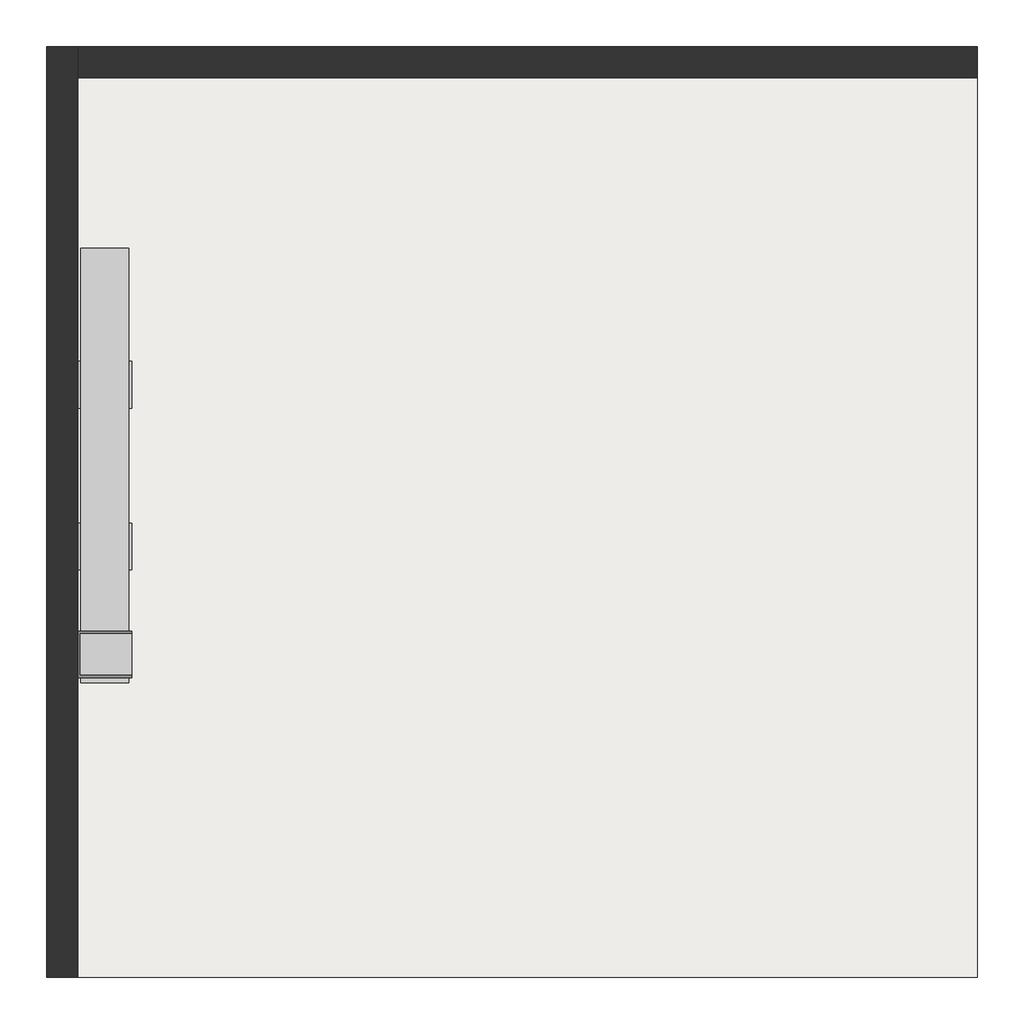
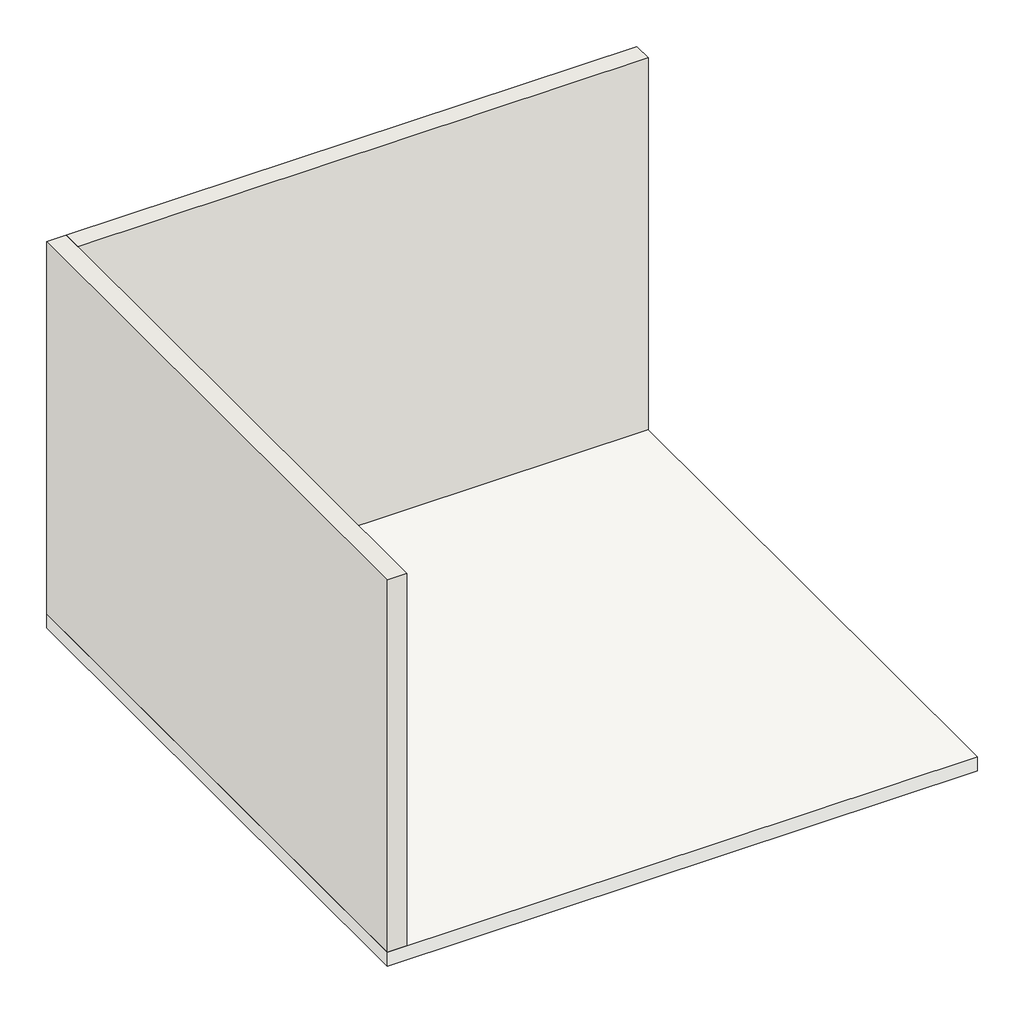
# One storey, incomplete: 8 furniture elements, 2 walls, 1 slab.
"""IFC4 building model written with IfcOpenShell, lengths in millimetres."""

import ifcopenshell
import ifcopenshell.guid

model = None  # the IFC model being written
_history = None  # IfcOwnerHistory: only IFC2X3 demands one
_inside = {}  # id of a spatial element -> (the spatial element, [elements in it])
_under = {}  # id of a project, library or spatial element -> (it, [spatial elements below it])
_declared = {}  # id of a project -> (the project, [libraries it declares])
_typed = {}  # id of a type object -> (the type object, [elements of that type])
_made_of = {}  # id of a material, layer set ... -> (it, [elements and type objects made of it])


def new_model(schema):
    """Start an empty IFC model of exactly this schema.

    Asked for "IFC4X3", IfcOpenShell would pick the latest addendum, in which some entities
    have other attributes; the version numbers below select the first issue.
    IFC2X3 requires an IfcOwnerHistory on every rooted entity: one is made here for all.
    """
    global model, _history
    if schema == "IFC4X3":
        model = ifcopenshell.file(schema_version=(4, 3, 0, 0))
    else:
        model = ifcopenshell.file(schema=schema)
    _inside.clear()
    _under.clear()
    _declared.clear()
    _typed.clear()
    _made_of.clear()
    _history = None
    if model.schema == "IFC2X3":
        org = make("IfcOrganization", Name="unknown")
        user = make(
            "IfcPersonAndOrganization",
            ThePerson=make("IfcPerson", FamilyName="unknown"),
            TheOrganization=org,
        )
        app = make(
            "IfcApplication",
            ApplicationDeveloper=org,
            Version="unknown",
            ApplicationFullName="unknown",
            ApplicationIdentifier="unknown",
        )
        _history = make(
            "IfcOwnerHistory",
            OwningUser=user,
            OwningApplication=app,
            ChangeAction="ADDED",
            CreationDate=0,
        )
    return model


def make(cls, **values):
    """One entity of the class cls with the attributes given. An attribute that is None is left unset."""
    return model.create_entity(
        cls, **{name: value for name, value in values.items() if value is not None}
    )


def rooted(cls, **values):
    """An entity with a GlobalId (a new one), such as an element, a storey or a relation."""
    return make(cls, GlobalId=ifcopenshell.guid.new(), OwnerHistory=_history, **values)


def si_unit(unit_type, name, prefix=None):
    """IfcSIUnit, for example si_unit("LENGTHUNIT", "METRE", prefix="MILLI")."""
    return make("IfcSIUnit", UnitType=unit_type, Prefix=prefix, Name=name)


def assignment(units):
    """IfcUnitAssignment: the units of a project."""
    return None if units is None else make("IfcUnitAssignment", Units=units)


def point(xyz):
    """IfcCartesianPoint."""
    return None if xyz is None else make("IfcCartesianPoint", Coordinates=xyz)


def direction(xyz):
    """IfcDirection."""
    return None if xyz is None else make("IfcDirection", DirectionRatios=xyz)


def frame(location, z_axis=None, x_axis=None):
    """IfcAxis2Placement3D, a coordinate frame: its origin and axes. An axis left out is left unset."""
    return make(
        "IfcAxis2Placement3D",
        Location=point(location),
        Axis=direction(z_axis),
        RefDirection=direction(x_axis),
    )


def origin():
    """The frame at (0, 0, 0) with its axes left unset."""
    return frame((0.0, 0.0, 0.0))


def origin_with_axes():
    """The frame at (0, 0, 0) with the z axis (0, 0, 1) and the x axis (1, 0, 0) written out."""
    return frame((0.0, 0.0, 0.0), z_axis=(0.0, 0.0, 1.0), x_axis=(1.0, 0.0, 0.0))


def place(relative_to, where):
    """IfcLocalPlacement: puts the frame where relative to a parent placement (None: the world)."""
    return make(
        "IfcLocalPlacement", PlacementRelTo=relative_to, RelativePlacement=where
    )


def context(
    kind, dimensions, precision=None, world=None, true_north=None, identifier=None
):
    """IfcGeometricRepresentationContext, for example the 3D "Model" context."""
    return make(
        "IfcGeometricRepresentationContext",
        ContextIdentifier=identifier,
        ContextType=kind,
        CoordinateSpaceDimension=dimensions,
        Precision=precision,
        WorldCoordinateSystem=world,
        TrueNorth=true_north,
    )


def project(units=None, contexts=None):
    """IfcProject with its units and contexts."""
    return rooted(
        "IfcProject",
        Name="project",
        RepresentationContexts=contexts,
        UnitsInContext=assignment(units),
    )


def spatial(cls, under=None, at=None, **own):
    """A site, building, storey or space (cls), placed at a placement, below another one or the project."""
    s = rooted(cls, ObjectPlacement=at, **own)
    if under is not None:
        _under.setdefault(under.id(), (under, []))[1].append(s)
    return s


def polyline(points):
    """IfcPolyline through the points."""
    return make("IfcPolyline", Points=[point(p) for p in points])


def outline(outer, holes=None, kind="AREA"):
    """IfcArbitraryClosedProfileDef: a profile drawn as a closed curve; with holes, ...WithVoids."""
    if holes is None:
        return make("IfcArbitraryClosedProfileDef", ProfileType=kind, OuterCurve=outer)
    return make(
        "IfcArbitraryProfileDefWithVoids",
        ProfileType=kind,
        OuterCurve=outer,
        InnerCurves=holes,
    )


def extrude(swept, where, along, depth):
    """IfcExtrudedAreaSolid: the profile swept, set in the frame where, extruded along a direction by depth."""
    return make(
        "IfcExtrudedAreaSolid",
        SweptArea=swept,
        Position=where,
        ExtrudedDirection=direction(along),
        Depth=depth,
    )


def faces_of(points, faces, orient=None, outer=None):
    """IfcFace entities. A face is a list of loops; a loop is a list of indices into points, from 0.

    orient and outer hold one flag for each loop. By default every Orientation is true, the
    first loop of a face is its IfcFaceOuterBound and the others are IfcFaceBound.
    """
    made = []
    for i, loops in enumerate(faces):
        bounds = []
        for j, loop in enumerate(loops):
            is_outer = j == 0 if outer is None else outer[i][j]
            bounds.append(
                make(
                    "IfcFaceOuterBound" if is_outer else "IfcFaceBound",
                    Bound=make("IfcPolyLoop", Polygon=[points[k] for k in loop]),
                    Orientation=True if orient is None else orient[i][j],
                )
            )
        made.append(make("IfcFace", Bounds=bounds))
    return made


def faceted_brep(points, faces, orient=None, outer=None, voids=None):
    """IfcFacetedBrep: a solid bounded by flat faces; with voids (closed shells), ...WithVoids."""
    shared = [point(p) for p in points]
    hull = make("IfcClosedShell", CfsFaces=faces_of(shared, faces, orient, outer))
    if voids is None:
        return make("IfcFacetedBrep", Outer=hull)
    return make(
        "IfcFacetedBrepWithVoids",
        Outer=hull,
        Voids=[
            make(cls, CfsFaces=faces_of(shared, fs, o, b)) for cls, fs, o, b in voids
        ],
    )


def shape(context_of_items, identifier, shape_type, items):
    """IfcShapeRepresentation: the items that make up one representation, for example the "Body"."""
    return make(
        "IfcShapeRepresentation",
        ContextOfItems=context_of_items,
        RepresentationIdentifier=identifier,
        RepresentationType=shape_type,
        Items=items,
    )


def source(mapping_origin, context_of_items, identifier, shape_type, items):
    """IfcRepresentationMap: a shape defined once, which mapped items show again and again."""
    return make(
        "IfcRepresentationMap",
        MappingOrigin=mapping_origin,
        MappedRepresentation=shape(context_of_items, identifier, shape_type, items),
    )


def transform(
    local_origin,
    x_axis=None,
    y_axis=None,
    z_axis=None,
    scale=None,
    scale2=None,
    scale3=None,
    uniform=True,
):
    """IfcCartesianTransformationOperator3D, or its non-uniform kind. x_axis, y_axis, z_axis: its Axis1, 2, 3."""
    if uniform:
        return make(
            "IfcCartesianTransformationOperator3D",
            Axis1=direction(x_axis),
            Axis2=direction(y_axis),
            LocalOrigin=point(local_origin),
            Scale=scale,
            Axis3=direction(z_axis),
        )
    return make(
        "IfcCartesianTransformationOperator3DnonUniform",
        Axis1=direction(x_axis),
        Axis2=direction(y_axis),
        LocalOrigin=point(local_origin),
        Scale=scale,
        Axis3=direction(z_axis),
        Scale2=scale2,
        Scale3=scale3,
    )


def mapped(mapping_source, mapping_target):
    """IfcMappedItem: shows the shape of a source again, moved by a transform."""
    return make(
        "IfcMappedItem", MappingSource=mapping_source, MappingTarget=mapping_target
    )


def made_of(thing, what):
    """Note that an element or type object is made of a material, layer set ...; save() writes the relation."""
    if what is not None:
        _made_of.setdefault(what.id(), (what, []))[1].append(thing)
    return thing


def element(
    cls,
    number,
    at=None,
    inside=None,
    cuts=None,
    type_object=None,
    material=None,
    context=None,
    identifier="Body",
    shape_type=None,
    held_by="IfcProductDefinitionShape",
    body=None,
    shapes=None,
    **own,
):
    """One element of the class cls, such as IfcWall. Its Tag is "e" and its number.

    at: its placement. inside: the storey or other place that contains it. cuts: it is an
    opening in that element (IfcRelVoidsElement). A single representation is given by context,
    identifier, shape_type and body (its items); several are given by shapes. held_by: the class
    of the entity that holds the representations. save() writes the other relations.
    """
    e = rooted(cls, Tag="e%d" % number, ObjectPlacement=at, **own)
    if body is not None:
        shapes = [shape(context, identifier, shape_type, body)]
    if shapes is not None:
        e.Representation = make(held_by, Representations=shapes)
    if inside is not None:
        _inside.setdefault(inside.id(), (inside, []))[1].append(e)
    if cuts is not None:
        rooted(
            "IfcRelVoidsElement", RelatingBuildingElement=cuts, RelatedOpeningElement=e
        )
    if type_object is not None:
        _typed.setdefault(type_object.id(), (type_object, []))[1].append(e)
    return made_of(e, material)


def aggregate(whole, parts):
    """IfcRelAggregates: a whole, such as a stair, and the parts it consists of."""
    return rooted("IfcRelAggregates", RelatingObject=whole, RelatedObjects=parts)


def save(model, path):
    """Write the relations noted so far, then the file.

    IfcRelAggregates (storeys below a building ...), IfcRelContainedInSpatialStructure (elements
    in a storey), IfcRelDefinesByType, IfcRelAssociatesMaterial and IfcRelDeclares: one each for
    every whole, place, type object, material and project.
    """
    for whole, parts in _under.values():
        aggregate(whole, parts)
    for where, things in _inside.values():
        rooted(
            "IfcRelContainedInSpatialStructure",
            RelatedElements=things,
            RelatingStructure=where,
        )
    for kind, things in _typed.values():
        rooted("IfcRelDefinesByType", RelatedObjects=things, RelatingType=kind)
    for what, things in _made_of.values():
        rooted("IfcRelAssociatesMaterial", RelatedObjects=things, RelatingMaterial=what)
    for by, libraries in _declared.values():
        rooted("IfcRelDeclares", RelatingContext=by, RelatedDefinitions=libraries)
    model.write(path)


def furniture_b993b705(model_context):
    return source(origin(), model_context, "Body", "Brep", [
        faceted_brep([(15.0, 0.0, 270.0), (15.0, 0.0, 20.0), (15.0, 335.0, 20.0), (15.0, 335.0, 270.0), (300.0, 0.0, 290.0), (0.0, 0.0, 290.0), (0.0, 0.0, 0.0), (300.0, 0.0, 0.0), (285.0, 0.0, 270.0), (285.0, 0.0, 20.0), (0.0, 350.0, 290.0), (0.0, 350.0, 0.0), (300.0, 350.0, 290.0), (300.0, 350.0, 0.0), (285.0, 335.0, 270.0), (285.0, 335.0, 20.0)], [[[0, 1, 2, 3]], [[4, 5, 6, 7], [1, 0, 8, 9]], [[5, 10, 11, 6]], [[10, 12, 13, 11]], [[4, 12, 10, 5]], [[8, 0, 3, 14]], [[12, 4, 7, 13]], [[9, 8, 14, 15]], [[1, 9, 15, 2]], [[7, 6, 11, 13]], [[3, 2, 15, 14]]]),
    ])


def chapa_de_vidro_chapa_de_vidro_dba7908c(model_context):
    return source(origin(), model_context, "Body", "SweptSolid", [
        extrude(outline(polyline([(2800.0, 0.0), (0.0, 0.0), (0.0, 310.0), (2800.0, 310.0), (2800.0, 0.0)])), origin_with_axes(), (0.0, 0.0, 1.0), 5.0),
    ])


model = new_model("IFC4")

# Units and contexts
model_context = context("Model", 3, world=origin())
ifc_project = project(units=[si_unit("LENGTHUNIT", "METRE", prefix="MILLI")], contexts=[model_context])

# Site, building, storey
site = spatial("IfcSite", under=ifc_project)
building = spatial("IfcBuilding", under=site)
storey = spatial("IfcBuildingStorey", under=building, Name="Nível 1", Elevation=0.0)

# Furniture
placement = place(None, origin())
furniture_shape = furniture_b993b705(model_context)
element("IfcFurniture", 1, ObjectType="Nicho : Nicho", at=placement, inside=storey, context=model_context, shape_type="MappedRepresentation", body=[
    mapped(furniture_shape, transform((-9493.6866606, 3723.8374911, 25.0), x_axis=(0.0, 1.0, 0.0), y_axis=(-1.0, 0.0, 0.0), z_axis=(0.0, 0.0, 1.0))),
])
element("IfcFurniture", 2, ObjectType="Nicho : Nicho", at=placement, inside=storey, context=model_context, shape_type="MappedRepresentation", body=[
    mapped(furniture_shape, transform((-9493.6866606, 1986.3374911, 985.0), x_axis=(0.0, 1.0, 0.0), y_axis=(-1.0, 0.0, 0.0), z_axis=(0.0, 0.0, 1.0))),
])
element("IfcFurniture", 3, ObjectType="Nicho : Nicho", at=placement, inside=storey, context=model_context, shape_type="MappedRepresentation", body=[
    mapped(furniture_shape, transform((-9493.6866606, 2681.3374911, 345.0), x_axis=(0.0, 1.0, 0.0), y_axis=(-1.0, 0.0, 0.0), z_axis=(0.0, 0.0, 1.0))),
])
element("IfcFurniture", 4, ObjectType="Nicho : Nicho", at=placement, inside=storey, context=model_context, shape_type="MappedRepresentation", body=[
    mapped(furniture_shape, transform((-9493.6866606, 3723.8374911, 665.0), x_axis=(0.0, 1.0, 0.0), y_axis=(-1.0, 0.0, 0.0), z_axis=(0.0, 0.0, 1.0))),
])
chapa_de_vidro_chapa_de_vidro_shape = chapa_de_vidro_chapa_de_vidro_dba7908c(model_context)
element("IfcFurniture", 5, ObjectType="Chapa de Vidro : Chapa de Vidro", at=placement, inside=storey, context=model_context, shape_type="MappedRepresentation", body=[
    mapped(chapa_de_vidro_chapa_de_vidro_shape, transform((-9823.6866606, 4753.8374911, 20.0), x_axis=(0.0, -1.0, 0.0), y_axis=(1.0, 0.0, 0.0), z_axis=(0.0, 0.0, 1.0))),
])
element("IfcFurniture", 6, ObjectType="Chapa de Vidro : Chapa de Vidro", at=placement, inside=storey, context=model_context, shape_type="MappedRepresentation", body=[
    mapped(chapa_de_vidro_chapa_de_vidro_shape, transform((-9823.6866606, 4753.8374911, 340.0), x_axis=(0.0, -1.0, 0.0), y_axis=(1.0, 0.0, 0.0), z_axis=(0.0, 0.0, 1.0))),
])
element("IfcFurniture", 7, ObjectType="Chapa de Vidro : Chapa de Vidro", at=placement, inside=storey, context=model_context, shape_type="MappedRepresentation", body=[
    mapped(chapa_de_vidro_chapa_de_vidro_shape, transform((-9823.6866606, 4753.8374911, 660.0), x_axis=(0.0, -1.0, 0.0), y_axis=(1.0, 0.0, 0.0), z_axis=(0.0, 0.0, 1.0))),
])
element("IfcFurniture", 8, ObjectType="Chapa de Vidro : Chapa de Vidro", at=placement, inside=storey, context=model_context, shape_type="MappedRepresentation", body=[
    mapped(chapa_de_vidro_chapa_de_vidro_shape, transform((-9823.6866606, 4753.8374911, 980.0), x_axis=(0.0, -1.0, 0.0), y_axis=(1.0, 0.0, 0.0), z_axis=(0.0, 0.0, 1.0))),
])

# Slab
element("IfcSlab", 9, ObjectType="Genérico 150 mm", at=placement, inside=storey, context=model_context, shape_type="SweptSolid", body=[
    extrude(outline(polyline([(-4043.6866606, 6053.8374911), (-4043.6866606, 53.8374911), (-10043.6866606, 53.8374911), (-10043.6866606, 6053.8374911), (-4043.6866606, 6053.8374911)])), frame((0.0, 0.0, -150.0), z_axis=(0.0, 0.0, 1.0), x_axis=(1.0, 0.0, 0.0)), (0.0, 0.0, 1.0), 150.0),
])

# Walls
element("IfcWall", 10, ObjectType="Genérico - 200 mm", at=placement, inside=storey, context=model_context, shape_type="Brep", body=[
    faceted_brep([(-9843.6866606, 53.8374911, 0.0), (-9843.6866606, 5853.8374911, 0.0), (-9843.6866606, 6053.8374911, 0.0), (-9843.6866606, 6053.8374911, 4000.0), (-9843.6866606, 5853.8374911, 4000.0), (-9843.6866606, 53.8374911, 4000.0), (-10043.6866606, 53.8374911, 0.0), (-10043.6866606, 53.8374911, 4000.0), (-10043.6866606, 6053.8374911, 4000.0), (-10043.6866606, 6053.8374911, 0.0)], [[[0, 1, 2, 3, 4, 5]], [[6, 7, 8, 9]], [[2, 1, 0, 6, 9]], [[5, 4, 3, 8, 7]], [[0, 5, 7, 6]], [[3, 2, 9, 8]]]),
])
element("IfcWall", 11, ObjectType="Genérico - 200 mm", at=placement, inside=storey, context=model_context, shape_type="SweptSolid", body=[
    extrude(outline(polyline([(-4043.6866606, 5853.8374911), (-9843.6866606, 5853.8374911), (-9843.6866606, 6053.8374911), (-4043.6866606, 6053.8374911), (-4043.6866606, 5853.8374911)])), origin_with_axes(), (0.0, 0.0, 1.0), 4000.0),
])

save(model, "model.ifc")
